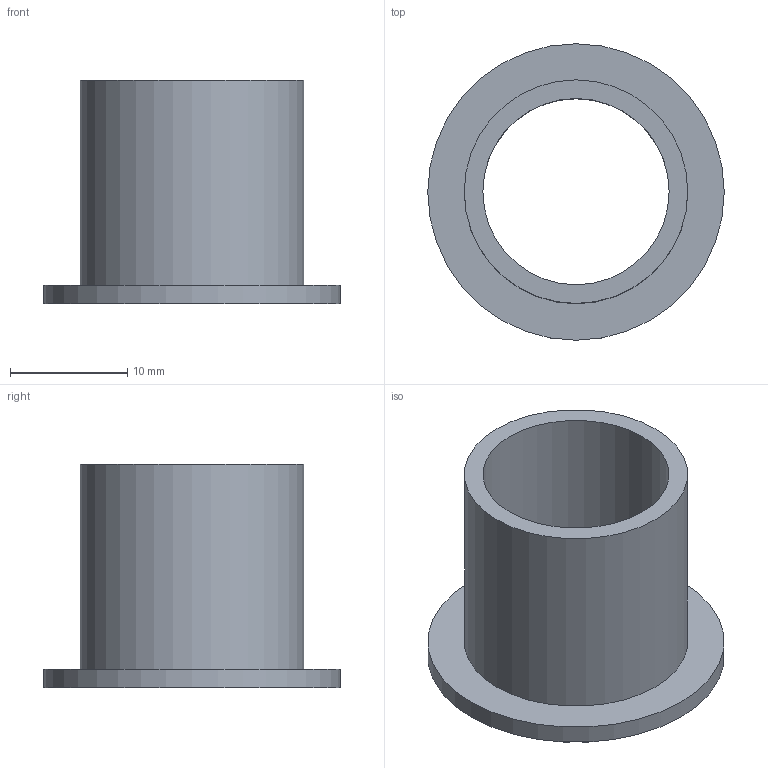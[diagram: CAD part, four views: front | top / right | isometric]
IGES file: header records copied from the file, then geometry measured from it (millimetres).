
Global section: file name: No Iges File Name specified; native system: AutoDesk Inventor R6.0; preprocessor: AutoDesk Inventor Iges Exporter R6.0; author: No Author specified; organization: No Organization specified; date: 20080121.072805; units: inch
Bounding box: 25.27 x 25.27 x 19.05 mm (x, y, z)
Surface area: 2728.4 mm2 (no closed solid volume)
Topology: 0 solids, 0 shells, 6 faces, 16 edges, 13 vertices
Faces by surface type: revolution 3, plane 3
